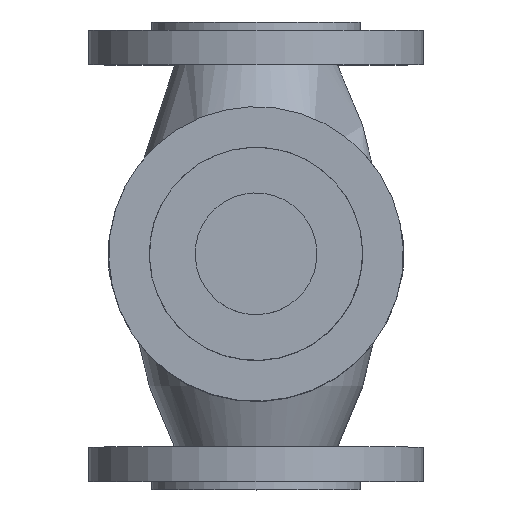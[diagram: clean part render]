
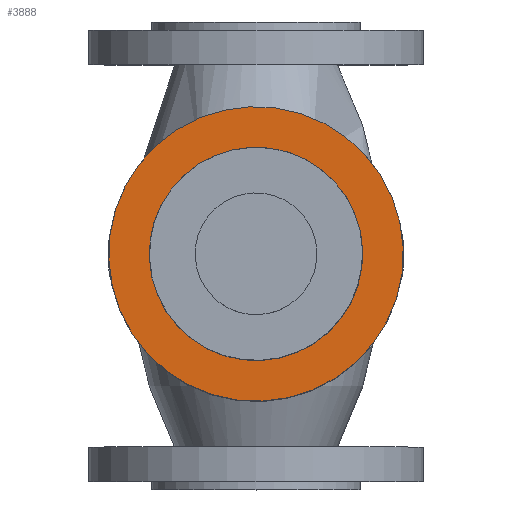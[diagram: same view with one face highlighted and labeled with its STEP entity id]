
A CAD part, top view. The second image highlights one B-rep face of the part: STEP entity #3888.
In plain terms, the highlighted planar face has unit normal (0, 0, 1) as drawn and (0, 0, -1) by its records, which use the part's own axes.
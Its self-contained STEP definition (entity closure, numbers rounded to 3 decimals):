
#702=ORIENTED_EDGE('',*,*,#1229,.F.);
#703=ORIENTED_EDGE('',*,*,#1228,.T.);
#1228=EDGE_CURVE('',#1529,#1529,#1762,.T.);
#1229=EDGE_CURVE('',#1530,#1530,#1763,.T.);
#1529=VERTEX_POINT('',#6846);
#1530=VERTEX_POINT('',#6849);
#1762=CIRCLE('',#4164,72.434);
#1763=CIRCLE('',#4166,52.5);
#1982=EDGE_LOOP('',(#702));
#1983=EDGE_LOOP('',(#703));
#2286=FACE_BOUND('',#1982,.T.);
#2287=FACE_BOUND('',#1983,.T.);
#2489=PLANE('',#4165);
#3888=ADVANCED_FACE('',(#2286,#2287),#2489,.F.);
#4164=AXIS2_PLACEMENT_3D('',#6845,#4735,#4736);
#4165=AXIS2_PLACEMENT_3D('',#6847,#4737,#4738);
#4166=AXIS2_PLACEMENT_3D('',#6848,#4739,#4740);
#4735=DIRECTION('',(0.,0.,-1.));
#4736=DIRECTION('',(-1.,0.,0.));
#4737=DIRECTION('',(0.,0.,1.));
#4738=DIRECTION('',(1.,0.,0.));
#4739=DIRECTION('',(0.,0.,-1.));
#4740=DIRECTION('',(-1.,0.,0.));
#6845=CARTESIAN_POINT('',(3.993,3.084,-88.901));
#6846=CARTESIAN_POINT('',(-68.441,3.084,-88.901));
#6847=CARTESIAN_POINT('',(-68.441,3.084,-88.901));
#6848=CARTESIAN_POINT('',(3.993,3.084,-88.901));
#6849=CARTESIAN_POINT('',(-48.507,3.084,-88.901));
